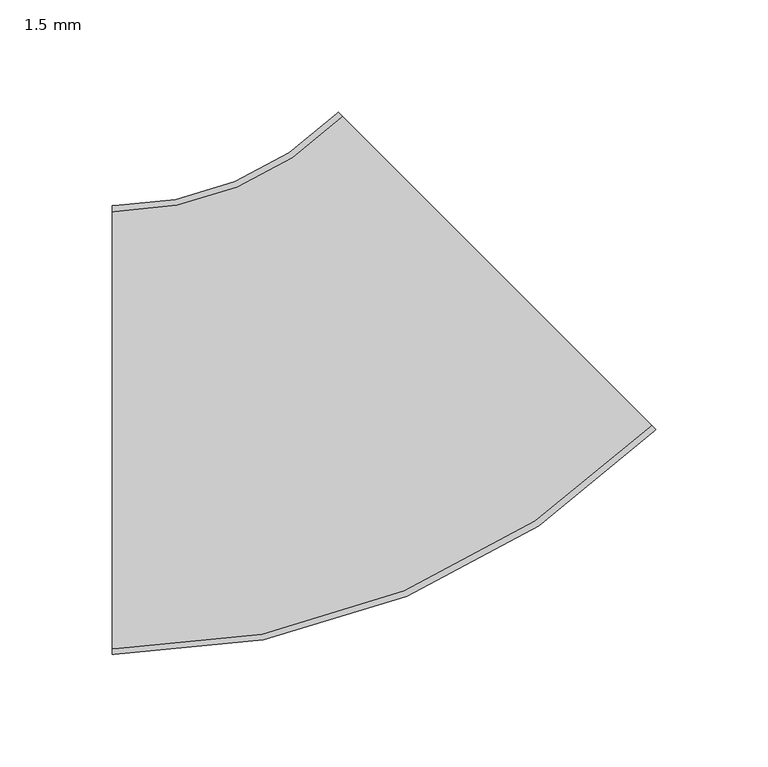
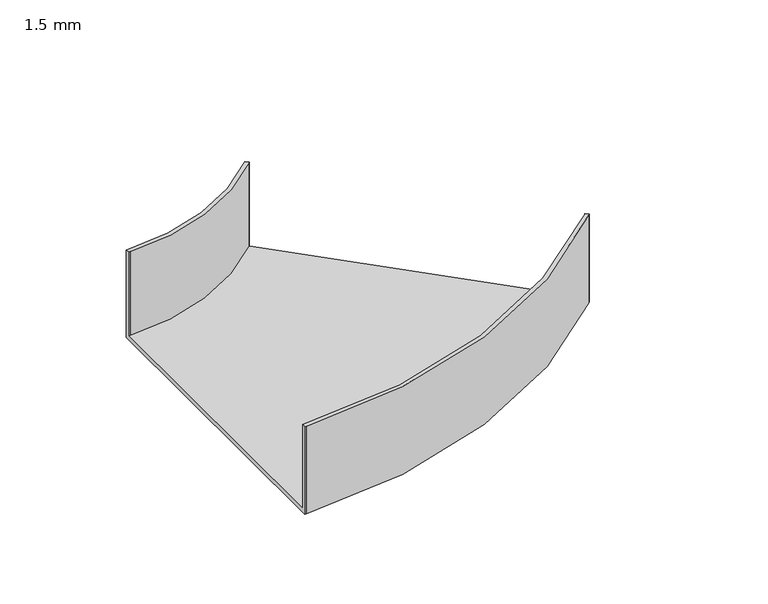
"""IFC4 building model written with IfcOpenShell, lengths in millimetres: cable carrier fitting geometry, BAKS_Kolano_koryta E90 (R140) : 1.5 mm."""

from ifc_helpers import new_model, si_unit, frame, origin, place, context, project, spatial, polyline, circle_curve, source, transform, mapped, element, save
from ifc_brep_helpers import plane_surface, cylinder_surface, revolved_surface, advanced_brep


def cable_carrier_fitting_1_5_mm_cd1b78aa(model_context):
    return source(origin(), model_context, "Body", "AdvancedBrep", [
        advanced_brep(
        [(-100.411255, -100.0, -30.0), (-100.411255, -100.0, 30.0), (-100.411255, -97.46, 30.0), (-100.411255, -97.46, -27.46), (-100.411255, 97.46, -27.46), (-100.411255, 97.46, 30.0), (-100.411255, 100.0, 30.0), (-100.411255, 100.0, -30.0), (141.7121574, 0.2908012, -30.0), (0.2908012, 141.7121574, -30.0), (0.2908012, 141.7121574, 30.0), (2.0868524, 139.9161062, 30.0), (2.0868524, 139.9161062, -27.46), (139.9161062, 2.0868524, -27.46), (139.9161062, 2.0868524, 30.0), (141.7121574, 0.2908012, 30.0), (-99.411255, -100.0, -30.0), (-99.411255, -100.0, 30.0), (141.0050506, -0.4163056, 30.0), (139.2089994, 1.3797456, 30.0), (-99.411255, -97.46, 30.0), (-99.411255, -97.46, -27.46), (139.2089994, 1.3797456, -27.46), (1.3797456, 139.2089994, -27.46), (-99.411255, 97.46, -27.46), (-99.411255, 97.46, 30.0), (1.3797456, 139.2089994, 30.0), (-0.4163056, 141.0050506, 30.0), (-99.411255, 100.0, 30.0), (-99.411255, 100.0, -30.0), (-0.4163056, 141.0050506, -30.0), (141.0050506, -0.4163056, -30.0)],
        [
            (0, 1),
            (1, 2),
            (2, 3),
            (3, 4),
            (4, 5),
            (5, 6),
            (6, 7),
            (7, 0),
            (8, 9),
            (9, 10),
            (10, 11),
            (11, 12),
            (12, 13),
            (13, 14),
            (14, 15),
            (15, 8),
            (0, 16),
            (16, 17),
            (17, 1),
            (17, 18, circle_curve(frame((-99.411255, 240.0, 30.0), z_axis=(0.0, 0.0, 1.0), x_axis=(0.0, -1.0, 0.0)), 340.0)),
            (18, 15),
            (14, 19),
            (19, 20, circle_curve(frame((-99.411255, 240.0, 30.0), z_axis=(0.0, 0.0, -1.0), x_axis=(0.0, -1.0, 0.0)), 337.46)),
            (20, 2),
            (20, 21),
            (21, 3),
            (21, 22, circle_curve(frame((-99.411255, 240.0, -27.46), z_axis=(0.0, 0.0, 1.0), x_axis=(0.0, -1.0, 0.0)), 337.46)),
            (22, 13),
            (12, 23),
            (23, 24, circle_curve(frame((-99.411255, 240.0, -27.46), z_axis=(0.0, 0.0, -1.0), x_axis=(0.0, -1.0, 0.0)), 142.54)),
            (24, 4),
            (24, 25),
            (25, 5),
            (25, 26, circle_curve(frame((-99.411255, 240.0, 30.0), z_axis=(0.0, 0.0, 1.0), x_axis=(0.0, -1.0, 0.0)), 142.54)),
            (26, 11),
            (10, 27),
            (27, 28, circle_curve(frame((-99.411255, 240.0, 30.0), z_axis=(0.0, 0.0, -1.0), x_axis=(0.0, -1.0, 0.0)), 140.0)),
            (28, 6),
            (28, 29),
            (29, 7),
            (29, 30, circle_curve(frame((-99.411255, 240.0, -30.0), z_axis=(0.0, 0.0, 1.0), x_axis=(0.0, -1.0, 0.0)), 140.0)),
            (30, 9),
            (8, 31),
            (31, 16, circle_curve(frame((-99.411255, 240.0, -30.0), z_axis=(0.0, 0.0, -1.0), x_axis=(0.0, -1.0, 0.0)), 340.0)),
            (31, 18),
            (19, 22),
            (23, 26),
            (27, 30),
        ],
        [
            plane_surface(frame((-100.411255, 0.0, 0.0), z_axis=(-1.0, -4.906741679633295e-12, 0.0), x_axis=(0.0, 0.0, 1.0))),
            plane_surface(frame((71.0014793, 71.0014793, 0.0), z_axis=(0.7071067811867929, 0.7071067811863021, 0.0), x_axis=(0.0, 0.0, 1.0))),
            plane_surface(frame((-100.411255, -100.0, -30.0), z_axis=(4.90674167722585e-12, -1.0, 0.0), x_axis=(1.0, 4.90674167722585e-12, 0.0))),
            plane_surface(frame((-100.411255, -100.0, 30.0), z_axis=(0.0, 0.0, 1.0), x_axis=(1.0, 4.90674167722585e-12, 0.0))),
            plane_surface(frame((-100.411255, -97.46, 30.0), z_axis=(-4.889821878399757e-12, 1.0, 0.0), x_axis=(1.0, 4.889821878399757e-12, 0.0))),
            plane_surface(frame((-100.411255, -97.46, -27.46), z_axis=(0.0, 0.0, 1.0), x_axis=(1.0, 4.9067416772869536e-12, 0.0))),
            plane_surface(frame((-100.411255, 97.46, -27.46), z_axis=(4.906741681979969e-12, -1.0, 0.0), x_axis=(1.0, 4.906741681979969e-12, 0.0))),
            plane_surface(frame((-100.411255, 97.46, 30.0), z_axis=(0.0, 0.0, 1.0), x_axis=(1.0, 4.906741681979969e-12, 0.0))),
            plane_surface(frame((-100.411255, 100.0, 30.0), z_axis=(-4.906741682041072e-12, 1.0, 0.0), x_axis=(1.0, 4.906741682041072e-12, 0.0))),
            plane_surface(frame((-100.411255, 100.0, -30.0), z_axis=(0.0, 0.0, -1.0), x_axis=(1.0, 4.906741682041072e-12, 0.0))),
            cylinder_surface(frame((-99.411255, 240.0, 0.0), z_axis=(0.0, 0.0, 1.0), x_axis=(0.0, -1.0, 0.0)), 340.0),
            revolved_surface(polyline([(-99.411255, -97.45999999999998, 30.0), (-99.411255, -97.45999999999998, -27.46)]), (-99.411255, 240.0, 0.0), (0.0, 0.0, 1.0)),
            cylinder_surface(frame((-99.411255, 240.0, 0.0), z_axis=(0.0, 0.0, 1.0), x_axis=(0.0, -1.0, 0.0)), 142.54),
            revolved_surface(polyline([(-99.411255, 100.0, 30.0), (-99.411255, 100.0, -30.0)]), (-99.411255, 240.0, 0.0), (0.0, 0.0, 1.0)),
            plane_surface(frame((141.0050506, -0.4163056, -30.0), z_axis=(0.7071067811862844, -0.7071067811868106, 0.0), x_axis=(0.7071067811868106, 0.7071067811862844, 0.0))),
            plane_surface(frame((139.2089994, 1.3797456, 30.0), z_axis=(-0.7071067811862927, 0.7071067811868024, 0.0), x_axis=(0.7071067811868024, 0.7071067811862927, 0.0))),
            plane_surface(frame((1.3797456, 139.2089994, -27.46), z_axis=(0.7071067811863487, -0.7071067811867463, 0.0), x_axis=(0.7071067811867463, 0.7071067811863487, 0.0))),
            plane_surface(frame((-0.4163056, 141.0050506, 30.0), z_axis=(-0.7071067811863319, 0.7071067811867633, 0.0), x_axis=(0.7071067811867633, 0.7071067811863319, 0.0))),
        ],
        [
            (0, [[1, 2, 3, 4, 5, 6, 7, 8]]),
            (1, [[9, 10, 11, 12, 13, 14, 15, 16]]),
            (2, [[-1, 17, 18, 19]]),
            (3, [[-2, -19, 20, 21, -15, 22, 23, 24]]),
            (4, [[-3, -24, 25, 26]]),
            (5, [[-4, -26, 27, 28, -13, 29, 30, 31]]),
            (6, [[-5, -31, 32, 33]]),
            (7, [[-6, -33, 34, 35, -11, 36, 37, 38]]),
            (8, [[-7, -38, 39, 40]]),
            (9, [[-8, -40, 41, 42, -9, 43, 44, -17]]),
            (10, [[-20, -18, -44, 45]]),
            (11, [[-27, -25, -23, 46]]),
            (12, [[-34, -32, -30, 47]]),
            (13, [[-41, -39, -37, 48]]),
            (14, [[-45, -43, -16, -21]]),
            (15, [[-46, -22, -14, -28]]),
            (16, [[-47, -29, -12, -35]]),
            (17, [[-48, -36, -10, -42]]),
        ],
    ),
    ])


if __name__ == "__main__":
    model = new_model("IFC4")
    model_context = context("Model", 3, world=origin())
    ifc_project = project(units=[si_unit("LENGTHUNIT", "METRE", prefix="MILLI")], contexts=[model_context])
    site = spatial("IfcSite", under=ifc_project)
    building = spatial("IfcBuilding", under=site)
    placement = place(None, origin())
    cable_carrier_fitting_1_5_mm_shape = cable_carrier_fitting_1_5_mm_cd1b78aa(model_context)
    element("IfcCableCarrierFitting", 1, ObjectType="BAKS_Kolano_koryta E90 (R140) : 1.5 mm", at=placement, inside=building, context=model_context, shape_type="MappedRepresentation", body=[
        mapped(cable_carrier_fitting_1_5_mm_shape, transform((0.0, 0.0, 0.0), x_axis=(1.0, 0.0, 0.0), y_axis=(0.0, 1.0, 0.0), z_axis=(0.0, 0.0, 1.0))),
    ])
    save(model, "model.ifc")
